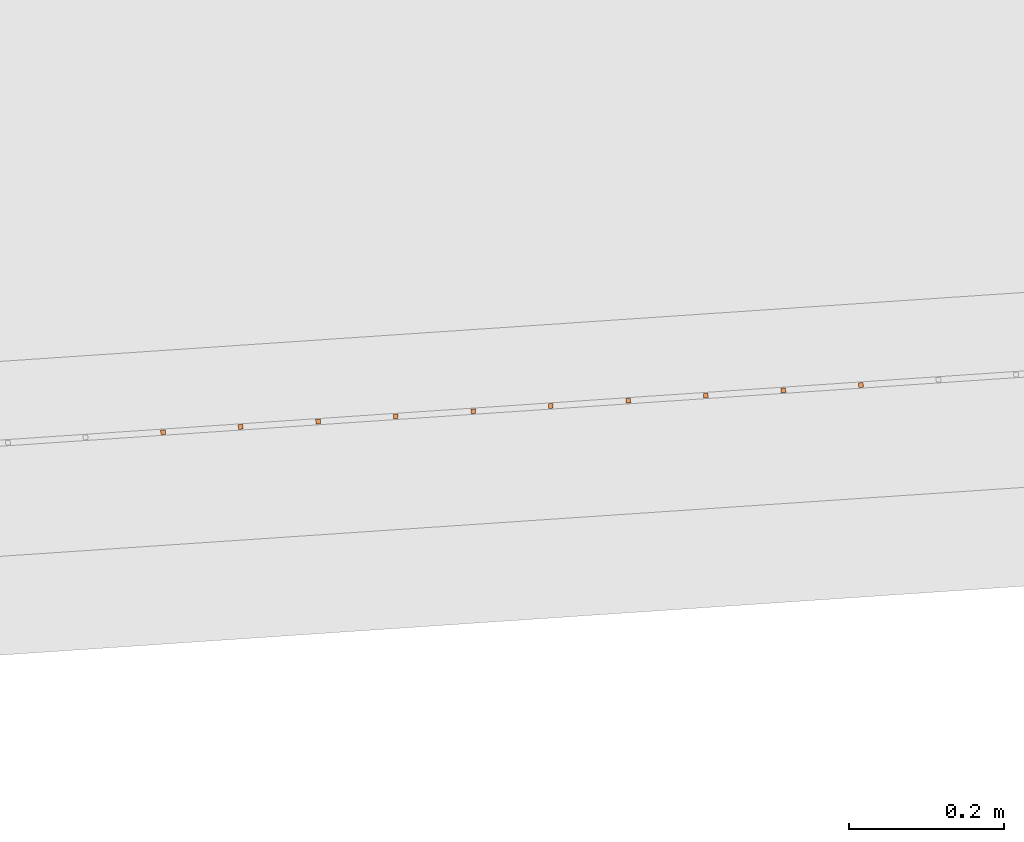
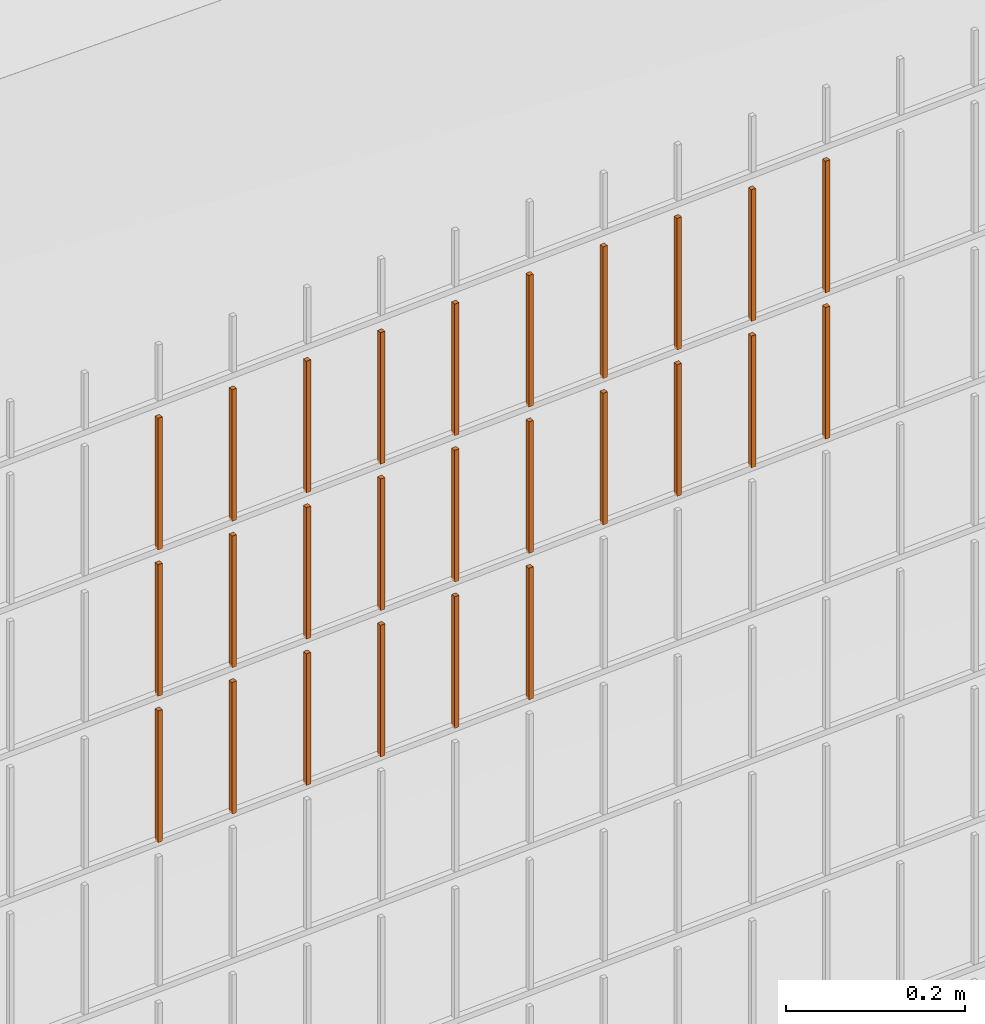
# One storey, part 348 of 1809: 26 proxies, 1 element without a shape of its own.
"""IFC2X3 building model written with IfcOpenShell, lengths in millimetres."""

import ifcopenshell
import ifcopenshell.guid

model = None  # the IFC model being written
_history = None  # IfcOwnerHistory: only IFC2X3 demands one
_inside = {}  # id of a spatial element -> (the spatial element, [elements in it])
_under = {}  # id of a project, library or spatial element -> (it, [spatial elements below it])
_declared = {}  # id of a project -> (the project, [libraries it declares])
_typed = {}  # id of a type object -> (the type object, [elements of that type])
_made_of = {}  # id of a material, layer set ... -> (it, [elements and type objects made of it])


def new_model(schema):
    """Start an empty IFC model of exactly this schema.

    Asked for "IFC4X3", IfcOpenShell would pick the latest addendum, in which some entities
    have other attributes; the version numbers below select the first issue.
    IFC2X3 requires an IfcOwnerHistory on every rooted entity: one is made here for all.
    """
    global model, _history
    if schema == "IFC4X3":
        model = ifcopenshell.file(schema_version=(4, 3, 0, 0))
    else:
        model = ifcopenshell.file(schema=schema)
    _inside.clear()
    _under.clear()
    _declared.clear()
    _typed.clear()
    _made_of.clear()
    _history = None
    if model.schema == "IFC2X3":
        org = make("IfcOrganization", Name="unknown")
        user = make(
            "IfcPersonAndOrganization",
            ThePerson=make("IfcPerson", FamilyName="unknown"),
            TheOrganization=org,
        )
        app = make(
            "IfcApplication",
            ApplicationDeveloper=org,
            Version="unknown",
            ApplicationFullName="unknown",
            ApplicationIdentifier="unknown",
        )
        _history = make(
            "IfcOwnerHistory",
            OwningUser=user,
            OwningApplication=app,
            ChangeAction="ADDED",
            CreationDate=0,
        )
    return model


def make(cls, **values):
    """One entity of the class cls with the attributes given. An attribute that is None is left unset."""
    return model.create_entity(
        cls, **{name: value for name, value in values.items() if value is not None}
    )


def entity(cls, *values):
    """Any entity or typed value of the class cls, its attributes in the order of the schema. None: left unset."""
    e = model.create_entity(cls)
    for i, value in enumerate(values):
        if value is not None:
            e[i] = value
    return e


def rooted(cls, **values):
    """An entity with a GlobalId (a new one), such as an element, a storey or a relation."""
    return make(cls, GlobalId=ifcopenshell.guid.new(), OwnerHistory=_history, **values)


def si_unit(unit_type, name, prefix=None):
    """IfcSIUnit, for example si_unit("LENGTHUNIT", "METRE", prefix="MILLI")."""
    return make("IfcSIUnit", UnitType=unit_type, Prefix=prefix, Name=name)


def converted_unit(unit_type, name, factor, base, dimensions=None, offset=None):
    """IfcConversionBasedUnit, such as the inch: factor (a typed value) times the base unit."""
    return make(
        "IfcConversionBasedUnit"
        if offset is None
        else "IfcConversionBasedUnitWithOffset",
        ConversionOffset=offset,
        Dimensions=None
        if dimensions is None
        else entity("IfcDimensionalExponents", *dimensions),
        UnitType=unit_type,
        Name=name,
        ConversionFactor=make(
            "IfcMeasureWithUnit", ValueComponent=factor, UnitComponent=base
        ),
    )


def derived_unit(unit_type, elements):
    """IfcDerivedUnit: a product of units, each with its exponent."""
    return make(
        "IfcDerivedUnit",
        Elements=[
            make("IfcDerivedUnitElement", Unit=unit, Exponent=power)
            for unit, power in elements
        ],
        UnitType=unit_type,
    )


def money_unit(currency):
    """IfcMonetaryUnit."""
    return make("IfcMonetaryUnit", Currency=currency)


def assignment(units):
    """IfcUnitAssignment: the units of a project."""
    return None if units is None else make("IfcUnitAssignment", Units=units)


def point(xyz):
    """IfcCartesianPoint."""
    return None if xyz is None else make("IfcCartesianPoint", Coordinates=xyz)


def direction(xyz):
    """IfcDirection."""
    return None if xyz is None else make("IfcDirection", DirectionRatios=xyz)


def frame(location, z_axis=None, x_axis=None):
    """IfcAxis2Placement3D, a coordinate frame: its origin and axes. An axis left out is left unset."""
    return make(
        "IfcAxis2Placement3D",
        Location=point(location),
        Axis=direction(z_axis),
        RefDirection=direction(x_axis),
    )


def origin_with_axes():
    """The frame at (0, 0, 0) with the z axis (0, 0, 1) and the x axis (1, 0, 0) written out."""
    return frame((0.0, 0.0, 0.0), z_axis=(0.0, 0.0, 1.0), x_axis=(1.0, 0.0, 0.0))


def place(relative_to, where):
    """IfcLocalPlacement: puts the frame where relative to a parent placement (None: the world)."""
    return make(
        "IfcLocalPlacement", PlacementRelTo=relative_to, RelativePlacement=where
    )


def context(
    kind, dimensions, precision=None, world=None, true_north=None, identifier=None
):
    """IfcGeometricRepresentationContext, for example the 3D "Model" context."""
    return make(
        "IfcGeometricRepresentationContext",
        ContextIdentifier=identifier,
        ContextType=kind,
        CoordinateSpaceDimension=dimensions,
        Precision=precision,
        WorldCoordinateSystem=world,
        TrueNorth=true_north,
    )


def subcontext(parent, identifier, kind, view, scale=None):
    """IfcGeometricRepresentationSubContext, for example "Body" below "Model"."""
    return make(
        "IfcGeometricRepresentationSubContext",
        ContextIdentifier=identifier,
        ContextType=kind,
        ParentContext=parent,
        TargetScale=scale,
        TargetView=view,
    )


def project(units=None, contexts=None):
    """IfcProject with its units and contexts."""
    return rooted(
        "IfcProject",
        Name="project",
        RepresentationContexts=contexts,
        UnitsInContext=assignment(units),
    )


def spatial(cls, under=None, at=None, **own):
    """A site, building, storey or space (cls), placed at a placement, below another one or the project."""
    s = rooted(cls, ObjectPlacement=at, **own)
    if under is not None:
        _under.setdefault(under.id(), (under, []))[1].append(s)
    return s


def faces_of(points, faces, orient=None, outer=None):
    """IfcFace entities. A face is a list of loops; a loop is a list of indices into points, from 0.

    orient and outer hold one flag for each loop. By default every Orientation is true, the
    first loop of a face is its IfcFaceOuterBound and the others are IfcFaceBound.
    """
    made = []
    for i, loops in enumerate(faces):
        bounds = []
        for j, loop in enumerate(loops):
            is_outer = j == 0 if outer is None else outer[i][j]
            bounds.append(
                make(
                    "IfcFaceOuterBound" if is_outer else "IfcFaceBound",
                    Bound=make("IfcPolyLoop", Polygon=[points[k] for k in loop]),
                    Orientation=True if orient is None else orient[i][j],
                )
            )
        made.append(make("IfcFace", Bounds=bounds))
    return made


def faceted_brep(points, faces, orient=None, outer=None, voids=None):
    """IfcFacetedBrep: a solid bounded by flat faces; with voids (closed shells), ...WithVoids."""
    shared = [point(p) for p in points]
    hull = make("IfcClosedShell", CfsFaces=faces_of(shared, faces, orient, outer))
    if voids is None:
        return make("IfcFacetedBrep", Outer=hull)
    return make(
        "IfcFacetedBrepWithVoids",
        Outer=hull,
        Voids=[
            make(cls, CfsFaces=faces_of(shared, fs, o, b)) for cls, fs, o, b in voids
        ],
    )


def shape(context_of_items, identifier, shape_type, items):
    """IfcShapeRepresentation: the items that make up one representation, for example the "Body"."""
    return make(
        "IfcShapeRepresentation",
        ContextOfItems=context_of_items,
        RepresentationIdentifier=identifier,
        RepresentationType=shape_type,
        Items=items,
    )


def source(mapping_origin, context_of_items, identifier, shape_type, items):
    """IfcRepresentationMap: a shape defined once, which mapped items show again and again."""
    return make(
        "IfcRepresentationMap",
        MappingOrigin=mapping_origin,
        MappedRepresentation=shape(context_of_items, identifier, shape_type, items),
    )


def transform(
    local_origin,
    x_axis=None,
    y_axis=None,
    z_axis=None,
    scale=None,
    scale2=None,
    scale3=None,
    uniform=True,
):
    """IfcCartesianTransformationOperator3D, or its non-uniform kind. x_axis, y_axis, z_axis: its Axis1, 2, 3."""
    if uniform:
        return make(
            "IfcCartesianTransformationOperator3D",
            Axis1=direction(x_axis),
            Axis2=direction(y_axis),
            LocalOrigin=point(local_origin),
            Scale=scale,
            Axis3=direction(z_axis),
        )
    return make(
        "IfcCartesianTransformationOperator3DnonUniform",
        Axis1=direction(x_axis),
        Axis2=direction(y_axis),
        LocalOrigin=point(local_origin),
        Scale=scale,
        Axis3=direction(z_axis),
        Scale2=scale2,
        Scale3=scale3,
    )


def mapped(mapping_source, mapping_target):
    """IfcMappedItem: shows the shape of a source again, moved by a transform."""
    return make(
        "IfcMappedItem", MappingSource=mapping_source, MappingTarget=mapping_target
    )


def material(Name=None, Category=None):
    """IfcMaterial."""
    return make("IfcMaterial", Name=Name, Category=Category)


def made_of(thing, what):
    """Note that an element or type object is made of a material, layer set ...; save() writes the relation."""
    if what is not None:
        _made_of.setdefault(what.id(), (what, []))[1].append(thing)
    return thing


def type_object(cls, material=None, **own):
    """A type object (cls), such as IfcWallType, which elements share."""
    return made_of(rooted(cls, **own), material)


def element(
    cls,
    number,
    at=None,
    inside=None,
    cuts=None,
    type_object=None,
    material=None,
    context=None,
    identifier="Body",
    shape_type=None,
    held_by="IfcProductDefinitionShape",
    body=None,
    shapes=None,
    **own,
):
    """One element of the class cls, such as IfcWall. Its Tag is "e" and its number.

    at: its placement. inside: the storey or other place that contains it. cuts: it is an
    opening in that element (IfcRelVoidsElement). A single representation is given by context,
    identifier, shape_type and body (its items); several are given by shapes. held_by: the class
    of the entity that holds the representations. save() writes the other relations.
    """
    e = rooted(cls, Tag="e%d" % number, ObjectPlacement=at, **own)
    if body is not None:
        shapes = [shape(context, identifier, shape_type, body)]
    if shapes is not None:
        e.Representation = make(held_by, Representations=shapes)
    if inside is not None:
        _inside.setdefault(inside.id(), (inside, []))[1].append(e)
    if cuts is not None:
        rooted(
            "IfcRelVoidsElement", RelatingBuildingElement=cuts, RelatedOpeningElement=e
        )
    if type_object is not None:
        _typed.setdefault(type_object.id(), (type_object, []))[1].append(e)
    return made_of(e, material)


def aggregate(whole, parts):
    """IfcRelAggregates: a whole, such as a stair, and the parts it consists of."""
    return rooted("IfcRelAggregates", RelatingObject=whole, RelatedObjects=parts)


def save(model, path):
    """Write the relations noted so far, then the file.

    IfcRelAggregates (storeys below a building ...), IfcRelContainedInSpatialStructure (elements
    in a storey), IfcRelDefinesByType, IfcRelAssociatesMaterial and IfcRelDeclares: one each for
    every whole, place, type object, material and project.
    """
    for whole, parts in _under.values():
        aggregate(whole, parts)
    for where, things in _inside.values():
        rooted(
            "IfcRelContainedInSpatialStructure",
            RelatedElements=things,
            RelatingStructure=where,
        )
    for kind, things in _typed.values():
        rooted("IfcRelDefinesByType", RelatedObjects=things, RelatingType=kind)
    for what, things in _made_of.values():
        rooted("IfcRelAssociatesMaterial", RelatedObjects=things, RelatingMaterial=what)
    for by, libraries in _declared.values():
        rooted("IfcRelDeclares", RelatingContext=by, RelatedDefinitions=libraries)
    model.write(path)


model = new_model("IFC2X3")

# Units and contexts
model_context = context("Model", 3, precision=0.01, world=origin_with_axes(), true_north=direction((0.0, 1.0)))
body_context = subcontext(model_context, "Body", "Model", "MODEL_VIEW")
ifc_project = project(units=[si_unit("LENGTHUNIT", "METRE", prefix="MILLI"), si_unit("AREAUNIT", "SQUARE_METRE"), si_unit("VOLUMEUNIT", "CUBIC_METRE"), converted_unit("PLANEANGLEUNIT", "DEGREE", entity("IfcPlaneAngleMeasure", 0.0174532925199), si_unit("PLANEANGLEUNIT", "RADIAN"), dimensions=[0, 0, 0, 0, 0, 0, 0]), si_unit("SOLIDANGLEUNIT", "STERADIAN"), money_unit("EUR"), converted_unit("TIMEUNIT", "Year", entity("IfcTimeMeasure", 31556926.0), si_unit("TIMEUNIT", "SECOND"), dimensions=[0, 0, 1, 0, 0, 0, 0]), si_unit("MASSUNIT", "GRAM", prefix="KILO"), si_unit("THERMODYNAMICTEMPERATUREUNIT", "DEGREE_CELSIUS"), si_unit("LUMINOUSINTENSITYUNIT", "LUMEN"), si_unit("ENERGYUNIT", "JOULE", prefix="MEGA"), derived_unit("THERMALCONDUCTANCEUNIT", [(si_unit("POWERUNIT", "WATT"), 1), (si_unit("LENGTHUNIT", "METRE"), -1), (si_unit("THERMODYNAMICTEMPERATUREUNIT", "KELVIN"), -1)]), derived_unit("SPECIFICHEATCAPACITYUNIT", [(si_unit("ENERGYUNIT", "JOULE"), 1), (si_unit("MASSUNIT", "GRAM", prefix="KILO"), -1), (si_unit("THERMODYNAMICTEMPERATUREUNIT", "KELVIN"), -1)]), derived_unit("MASSDENSITYUNIT", [(si_unit("MASSUNIT", "GRAM", prefix="KILO"), 1), (si_unit("VOLUMEUNIT", "CUBIC_METRE"), -1)])], contexts=[model_context])

# Site, building, storey
site_placement = place(None, origin_with_axes())
site = spatial("IfcSite", under=ifc_project, at=site_placement, Name="Politse- ja Piirivalveameti ning Päästeameti ühishoone", CompositionType="ELEMENT")
building_placement = place(site_placement, origin_with_axes())
building = spatial("IfcBuilding", under=site, at=building_placement, Name="Politse- ja Piirivalveameti ning Päästeameti ühishoone", CompositionType="ELEMENT")
storey_placement = place(building_placement, origin_with_axes())
storey = spatial("IfcBuildingStorey", under=building, at=storey_placement, Name="Esimene korrus", CompositionType="ELEMENT", Elevation=0.0)

# Proxies
building_element_proxy_type_1 = type_object("IfcBuildingElementProxyType", Name="Railing Type", PredefinedType="NOTDEFINED")
proxy_1_placement = place(storey_placement, frame((89252.001212, -29183.4766571, 203.661247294), z_axis=(0.0, 0.0, 1.0), x_axis=(1.0, 0.0, 0.0)))
proxy_1 = element("IfcBuildingElementProxy", 1, at=proxy_1_placement, inside=storey, type_object=building_element_proxy_type_1, Name="PIIRDEAED")
ifc_material = material(Name="ET-03_Raud")
building_element_proxy_type_2 = type_object("IfcBuildingElementProxyType", Name="IfcBuildingElementProxy", PredefinedType="NOTDEFINED")
shared_shape_1 = source(origin_with_axes(), body_context, "Body", "Brep", [
    faceted_brep([(3.0, 3.0, -0.000752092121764), (-3.0, 3.0, -0.000752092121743), (-3.0, 3.0, 179.99926046), (3.0, 3.0, 179.99926046), (3.0, -3.0, 0.000752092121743), (-3.0, -3.0, 0.000752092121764), (-3.0, -3.0, 180.000764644), (3.0, -3.0, 180.000764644)], [[[0, 1, 2, 3]], [[0, 4, 5, 1]], [[1, 5, 6, 2]], [[3, 2, 6, 7]], [[4, 0, 3, 7]], [[5, 4, 7, 6]]]),
])
proxy_2_placement = place(proxy_1_placement, frame((-28262.2881008, -19206.7856648, 1620.13295922), z_axis=(0.0, 0.0, 1.0), x_axis=(1.0, 0.0, 0.0)))
proxy_2 = element("IfcBuildingElementProxy", 2, at=proxy_2_placement, type_object=building_element_proxy_type_2, material=ifc_material, Name="BALUSTER - 001", context=body_context, shape_type="MappedRepresentation", body=[
    mapped(shared_shape_1, transform((0.0, 0.0, 0.0), x_axis=(-0.0673926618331, 0.997726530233, 0.0), y_axis=(-0.997726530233, -0.0673926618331, 0.0), z_axis=(0.0, 0.0, 1.0))),
])
shared_shape_2 = source(origin_with_axes(), body_context, "Body", "Brep", [
    faceted_brep([(3.0, 3.0, -0.000752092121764), (-3.0, 3.0, -0.000752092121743), (-3.0, 3.0, 179.99926046), (3.0, 3.0, 179.99926046), (3.0, -3.0, 0.000752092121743), (-3.0, -3.0, 0.000752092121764), (-3.0, -3.0, 180.000764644), (3.0, -3.0, 180.000764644)], [[[0, 1, 2, 3]], [[0, 4, 5, 1]], [[1, 5, 6, 2]], [[3, 2, 6, 7]], [[4, 0, 3, 7]], [[5, 4, 7, 6]]]),
])
proxy_3_placement = place(proxy_1_placement, frame((-28262.2881008, -19206.7856648, 1820.13295922), z_axis=(0.0, 0.0, 1.0), x_axis=(1.0, 0.0, 0.0)))
proxy_3 = element("IfcBuildingElementProxy", 3, at=proxy_3_placement, type_object=building_element_proxy_type_2, material=ifc_material, Name="BALUSTER - 001", context=body_context, shape_type="MappedRepresentation", body=[
    mapped(shared_shape_2, transform((0.0, 0.0, 0.0), x_axis=(-0.0673926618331, 0.997726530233, 0.0), y_axis=(-0.997726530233, -0.0673926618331, 0.0), z_axis=(0.0, 0.0, 1.0))),
])
shared_shape_3 = source(origin_with_axes(), body_context, "Body", "Brep", [
    faceted_brep([(3.0, 3.0, -0.000752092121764), (-3.0, 3.0, -0.000752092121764), (-3.0, 3.0, 179.99926046), (3.0, 3.0, 179.99926046), (3.0, -3.0, 0.000752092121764), (-3.0, -3.0, 0.000752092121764), (-3.0, -3.0, 180.000764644), (3.0, -3.0, 180.000764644)], [[[0, 1, 2, 3]], [[0, 4, 5, 1]], [[1, 5, 6, 2]], [[3, 2, 6, 7]], [[4, 0, 3, 7]], [[5, 4, 7, 6]]]),
])
proxy_4_placement = place(proxy_1_placement, frame((-28860.9240189, -19247.2212619, 1419.9825408), z_axis=(0.0, 0.0, 1.0), x_axis=(1.0, 0.0, 0.0)))
proxy_4 = element("IfcBuildingElementProxy", 4, at=proxy_4_placement, type_object=building_element_proxy_type_2, material=ifc_material, Name="BALUSTER - 001", context=body_context, shape_type="MappedRepresentation", body=[
    mapped(shared_shape_3, transform((0.0, 0.0, 0.0), x_axis=(-0.0673926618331, 0.997726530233, 0.0), y_axis=(-0.997726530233, -0.0673926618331, 0.0), z_axis=(0.0, 0.0, 1.0))),
])
proxy_5_placement = place(proxy_1_placement, frame((-28860.9240189, -19247.2212619, 1619.9825408), z_axis=(0.0, 0.0, 1.0), x_axis=(1.0, 0.0, 0.0)))
proxy_5 = element("IfcBuildingElementProxy", 5, at=proxy_5_placement, type_object=building_element_proxy_type_2, material=ifc_material, Name="BALUSTER - 001", context=body_context, shape_type="MappedRepresentation", body=[
    mapped(shared_shape_3, transform((0.0, 0.0, 0.0), x_axis=(-0.0673926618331, 0.997726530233, 0.0), y_axis=(-0.997726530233, -0.0673926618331, 0.0), z_axis=(0.0, 0.0, 1.0))),
])
shared_shape_4 = source(origin_with_axes(), body_context, "Body", "Brep", [
    faceted_brep([(3.0, 3.0, -0.000752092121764), (-3.0, 3.0, -0.000752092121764), (-3.0, 3.0, 179.99926046), (3.0, 3.0, 179.99926046), (3.0, -3.0, 0.000752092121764), (-3.0, -3.0, 0.000752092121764), (-3.0, -3.0, 180.000764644), (3.0, -3.0, 180.000764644)], [[[0, 1, 2, 3]], [[0, 4, 5, 1]], [[1, 5, 6, 2]], [[3, 2, 6, 7]], [[4, 0, 3, 7]], [[5, 4, 7, 6]]]),
])
proxy_6_placement = place(proxy_1_placement, frame((-28860.9240189, -19247.2212619, 1819.9825408), z_axis=(0.0, 0.0, 1.0), x_axis=(1.0, 0.0, 0.0)))
proxy_6 = element("IfcBuildingElementProxy", 6, at=proxy_6_placement, type_object=building_element_proxy_type_2, material=ifc_material, Name="BALUSTER - 001", context=body_context, shape_type="MappedRepresentation", body=[
    mapped(shared_shape_4, transform((0.0, 0.0, 0.0), x_axis=(-0.0673926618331, 0.997726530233, 0.0), y_axis=(-0.997726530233, -0.0673926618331, 0.0), z_axis=(0.0, 0.0, 1.0))),
])
shared_shape_5 = source(origin_with_axes(), body_context, "Body", "Brep", [
    faceted_brep([(3.0, 3.0, -0.000752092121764), (-3.0, 3.0, -0.000752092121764), (-3.0, 3.0, 179.99926046), (3.0, 3.0, 179.99926046), (3.0, -3.0, 0.000752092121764), (-3.0, -3.0, 0.000752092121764), (-3.0, -3.0, 180.000764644), (3.0, -3.0, 180.000764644)], [[[0, 1, 2, 3]], [[0, 4, 5, 1]], [[1, 5, 6, 2]], [[3, 2, 6, 7]], [[4, 0, 3, 7]], [[5, 4, 7, 6]]]),
])
proxy_7_placement = place(proxy_1_placement, frame((-28362.0607538, -19213.524931, 1820.10788949), z_axis=(0.0, 0.0, 1.0), x_axis=(1.0, 0.0, 0.0)))
proxy_7 = element("IfcBuildingElementProxy", 7, at=proxy_7_placement, type_object=building_element_proxy_type_2, material=ifc_material, Name="BALUSTER - 001", context=body_context, shape_type="MappedRepresentation", body=[
    mapped(shared_shape_5, transform((0.0, 0.0, 0.0), x_axis=(-0.0673926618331, 0.997726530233, 0.0), y_axis=(-0.997726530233, -0.0673926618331, 0.0), z_axis=(0.0, 0.0, 1.0))),
])
shared_shape_6 = source(origin_with_axes(), body_context, "Body", "Brep", [
    faceted_brep([(3.0, 3.0, -0.000752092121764), (-3.0, 3.0, -0.000752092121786), (-3.0, 3.0, 179.99926046), (3.0, 3.0, 179.99926046), (3.0, -3.0, 0.000752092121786), (-3.0, -3.0, 0.000752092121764), (-3.0, -3.0, 180.000764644), (3.0, -3.0, 180.000764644)], [[[0, 1, 2, 3]], [[0, 4, 5, 1]], [[1, 5, 6, 2]], [[3, 2, 6, 7]], [[4, 0, 3, 7]], [[5, 4, 7, 6]]]),
])
proxy_8_placement = place(proxy_1_placement, frame((-28761.1513659, -19240.4819957, 1820.00761054), z_axis=(0.0, 0.0, 1.0), x_axis=(1.0, 0.0, 0.0)))
proxy_8 = element("IfcBuildingElementProxy", 8, at=proxy_8_placement, type_object=building_element_proxy_type_2, material=ifc_material, Name="BALUSTER - 001", context=body_context, shape_type="MappedRepresentation", body=[
    mapped(shared_shape_6, transform((0.0, 0.0, 0.0), x_axis=(-0.0673926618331, 0.997726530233, 0.0), y_axis=(-0.997726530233, -0.0673926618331, 0.0), z_axis=(0.0, 0.0, 1.0))),
])
shared_shape_7 = source(origin_with_axes(), body_context, "Body", "Brep", [
    faceted_brep([(3.0, 3.0, -0.000752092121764), (-3.0, 3.0, -0.000752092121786), (-3.0, 3.0, 179.99926046), (3.0, 3.0, 179.99926046), (3.0, -3.0, 0.000752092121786), (-3.0, -3.0, 0.000752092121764), (-3.0, -3.0, 180.000764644), (3.0, -3.0, 180.000764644)], [[[0, 1, 2, 3]], [[0, 4, 5, 1]], [[1, 5, 6, 2]], [[3, 2, 6, 7]], [[4, 0, 3, 7]], [[5, 4, 7, 6]]]),
])
proxy_9_placement = place(proxy_1_placement, frame((-28661.3787129, -19233.7427295, 1820.03268027), z_axis=(0.0, 0.0, 1.0), x_axis=(1.0, 0.0, 0.0)))
proxy_9 = element("IfcBuildingElementProxy", 9, at=proxy_9_placement, type_object=building_element_proxy_type_2, material=ifc_material, Name="BALUSTER - 001", context=body_context, shape_type="MappedRepresentation", body=[
    mapped(shared_shape_7, transform((0.0, 0.0, 0.0), x_axis=(-0.0673926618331, 0.997726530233, 0.0), y_axis=(-0.997726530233, -0.0673926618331, 0.0), z_axis=(0.0, 0.0, 1.0))),
])
shared_shape_8 = source(origin_with_axes(), body_context, "Body", "Brep", [
    faceted_brep([(3.0, 3.0, -0.000752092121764), (-3.0, 3.0, -0.000752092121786), (-3.0, 3.0, 179.99926046), (3.0, 3.0, 179.99926046), (3.0, -3.0, 0.000752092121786), (-3.0, -3.0, 0.000752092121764), (-3.0, -3.0, 180.000764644), (3.0, -3.0, 180.000764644)], [[[0, 1, 2, 3]], [[0, 4, 5, 1]], [[1, 5, 6, 2]], [[3, 2, 6, 7]], [[4, 0, 3, 7]], [[5, 4, 7, 6]]]),
])
proxy_10_placement = place(proxy_1_placement, frame((-28661.3787129, -19233.7427295, 1420.03268027), z_axis=(0.0, 0.0, 1.0), x_axis=(1.0, 0.0, 0.0)))
proxy_10 = element("IfcBuildingElementProxy", 10, at=proxy_10_placement, type_object=building_element_proxy_type_2, material=ifc_material, Name="BALUSTER - 001", context=body_context, shape_type="MappedRepresentation", body=[
    mapped(shared_shape_8, transform((0.0, 0.0, 0.0), x_axis=(-0.0673926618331, 0.997726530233, 0.0), y_axis=(-0.997726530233, -0.0673926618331, 0.0), z_axis=(0.0, 0.0, 1.0))),
])
shared_shape_9 = source(origin_with_axes(), body_context, "Body", "Brep", [
    faceted_brep([(3.0, 3.0, -0.000752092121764), (-3.0, 3.0, -0.000752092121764), (-3.0, 3.0, 179.99926046), (3.0, 3.0, 179.99926046), (3.0, -3.0, 0.000752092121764), (-3.0, -3.0, 0.000752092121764), (-3.0, -3.0, 180.000764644), (3.0, -3.0, 180.000764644)], [[[0, 1, 2, 3]], [[0, 4, 5, 1]], [[1, 5, 6, 2]], [[3, 2, 6, 7]], [[4, 0, 3, 7]], [[5, 4, 7, 6]]]),
])
proxy_11_placement = place(proxy_1_placement, frame((-28362.0607538, -19213.524931, 1620.10788949), z_axis=(0.0, 0.0, 1.0), x_axis=(1.0, 0.0, 0.0)))
proxy_11 = element("IfcBuildingElementProxy", 11, at=proxy_11_placement, type_object=building_element_proxy_type_2, material=ifc_material, Name="BALUSTER - 001", context=body_context, shape_type="MappedRepresentation", body=[
    mapped(shared_shape_9, transform((0.0, 0.0, 0.0), x_axis=(-0.0673926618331, 0.997726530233, 0.0), y_axis=(-0.997726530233, -0.0673926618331, 0.0), z_axis=(0.0, 0.0, 1.0))),
])
shared_shape_10 = source(origin_with_axes(), body_context, "Body", "Brep", [
    faceted_brep([(3.0, 3.0, -0.000752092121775), (-3.0, 3.0, -0.000752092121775), (-3.0, 3.0, 179.99926046), (3.0, 3.0, 179.99926046), (3.0, -3.0, 0.000752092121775), (-3.0, -3.0, 0.000752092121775), (-3.0, -3.0, 180.000764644), (3.0, -3.0, 180.000764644)], [[[0, 1, 2, 3]], [[0, 4, 5, 1]], [[1, 5, 6, 2]], [[3, 2, 6, 7]], [[4, 0, 3, 7]], [[5, 4, 7, 6]]]),
])
proxy_12_placement = place(proxy_1_placement, frame((-28561.6060598, -19227.0034633, 1620.05775001), z_axis=(0.0, 0.0, 1.0), x_axis=(1.0, 0.0, 0.0)))
proxy_12 = element("IfcBuildingElementProxy", 12, at=proxy_12_placement, type_object=building_element_proxy_type_2, material=ifc_material, Name="BALUSTER - 001", context=body_context, shape_type="MappedRepresentation", body=[
    mapped(shared_shape_10, transform((0.0, 0.0, 0.0), x_axis=(-0.0673926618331, 0.997726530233, 0.0), y_axis=(-0.997726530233, -0.0673926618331, 0.0), z_axis=(0.0, 0.0, 1.0))),
])
shared_shape_11 = source(origin_with_axes(), body_context, "Body", "Brep", [
    faceted_brep([(3.0, 3.0, -0.000752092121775), (-3.0, 3.0, -0.000752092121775), (-3.0, 3.0, 179.99926046), (3.0, 3.0, 179.99926046), (3.0, -3.0, 0.000752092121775), (-3.0, -3.0, 0.000752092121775), (-3.0, -3.0, 180.000764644), (3.0, -3.0, 180.000764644)], [[[0, 1, 2, 3]], [[0, 4, 5, 1]], [[1, 5, 6, 2]], [[3, 2, 6, 7]], [[4, 0, 3, 7]], [[5, 4, 7, 6]]]),
])
proxy_13_placement = place(proxy_1_placement, frame((-28561.6060598, -19227.0034633, 1820.05775001), z_axis=(0.0, 0.0, 1.0), x_axis=(1.0, 0.0, 0.0)))
proxy_13 = element("IfcBuildingElementProxy", 13, at=proxy_13_placement, type_object=building_element_proxy_type_2, material=ifc_material, Name="BALUSTER - 001", context=body_context, shape_type="MappedRepresentation", body=[
    mapped(shared_shape_11, transform((0.0, 0.0, 0.0), x_axis=(-0.0673926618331, 0.997726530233, 0.0), y_axis=(-0.997726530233, -0.0673926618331, 0.0), z_axis=(0.0, 0.0, 1.0))),
])
shared_shape_12 = source(origin_with_axes(), body_context, "Body", "Brep", [
    faceted_brep([(3.0, 3.0, -0.000752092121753), (-3.0, 3.0, -0.000752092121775), (-3.0, 3.0, 179.99926046), (3.0, 3.0, 179.99926046), (3.0, -3.0, 0.000752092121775), (-3.0, -3.0, 0.000752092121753), (-3.0, -3.0, 180.000764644), (3.0, -3.0, 180.000764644)], [[[0, 1, 2, 3]], [[0, 4, 5, 1]], [[1, 5, 6, 2]], [[3, 2, 6, 7]], [[4, 0, 3, 7]], [[5, 4, 7, 6]]]),
])
proxy_14_placement = place(proxy_1_placement, frame((-28461.8334068, -19220.2641972, 1820.08281975), z_axis=(0.0, 0.0, 1.0), x_axis=(1.0, 0.0, 0.0)))
proxy_14 = element("IfcBuildingElementProxy", 14, at=proxy_14_placement, type_object=building_element_proxy_type_2, material=ifc_material, Name="BALUSTER - 001", context=body_context, shape_type="MappedRepresentation", body=[
    mapped(shared_shape_12, transform((0.0, 0.0, 0.0), x_axis=(-0.0673926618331, 0.997726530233, 0.0), y_axis=(-0.997726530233, -0.0673926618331, 0.0), z_axis=(0.0, 0.0, 1.0))),
])
shared_shape_13 = source(origin_with_axes(), body_context, "Body", "Brep", [
    faceted_brep([(3.0, 3.0, -0.000752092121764), (-3.0, 3.0, -0.000752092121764), (-3.0, 3.0, 179.99926046), (3.0, 3.0, 179.99926046), (3.0, -3.0, 0.000752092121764), (-3.0, -3.0, 0.000752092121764), (-3.0, -3.0, 180.000764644), (3.0, -3.0, 180.000764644)], [[[0, 1, 2, 3]], [[0, 4, 5, 1]], [[1, 5, 6, 2]], [[3, 2, 6, 7]], [[4, 0, 3, 7]], [[5, 4, 7, 6]]]),
])
proxy_15_placement = place(proxy_1_placement, frame((-28960.6966719, -19253.9605281, 1619.95747106), z_axis=(0.0, 0.0, 1.0), x_axis=(1.0, 0.0, 0.0)))
proxy_15 = element("IfcBuildingElementProxy", 15, at=proxy_15_placement, type_object=building_element_proxy_type_2, material=ifc_material, Name="BALUSTER - 001", context=body_context, shape_type="MappedRepresentation", body=[
    mapped(shared_shape_13, transform((0.0, 0.0, 0.0), x_axis=(-0.0673926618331, 0.997726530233, 0.0), y_axis=(-0.997726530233, -0.0673926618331, 0.0), z_axis=(0.0, 0.0, 1.0))),
])
shared_shape_14 = source(origin_with_axes(), body_context, "Body", "Brep", [
    faceted_brep([(3.0, 3.0, -0.000752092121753), (-3.0, 3.0, -0.000752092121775), (-3.0, 3.0, 179.99926046), (3.0, 3.0, 179.99926046), (3.0, -3.0, 0.000752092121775), (-3.0, -3.0, 0.000752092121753), (-3.0, -3.0, 180.000764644), (3.0, -3.0, 180.000764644)], [[[0, 1, 2, 3]], [[0, 4, 5, 1]], [[1, 5, 6, 2]], [[3, 2, 6, 7]], [[4, 0, 3, 7]], [[5, 4, 7, 6]]]),
])
proxy_16_placement = place(proxy_1_placement, frame((-29060.469325, -19260.6997943, 1819.93240133), z_axis=(0.0, 0.0, 1.0), x_axis=(1.0, 0.0, 0.0)))
proxy_16 = element("IfcBuildingElementProxy", 16, at=proxy_16_placement, type_object=building_element_proxy_type_2, material=ifc_material, Name="BALUSTER - 001", context=body_context, shape_type="MappedRepresentation", body=[
    mapped(shared_shape_14, transform((0.0, 0.0, 0.0), x_axis=(-0.0673926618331, 0.997726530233, 0.0), y_axis=(-0.997726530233, -0.0673926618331, 0.0), z_axis=(0.0, 0.0, 1.0))),
])
shared_shape_15 = source(origin_with_axes(), body_context, "Body", "Brep", [
    faceted_brep([(3.0, 3.0, -0.000752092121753), (-3.0, 3.0, -0.000752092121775), (-3.0, 3.0, 179.99926046), (3.0, 3.0, 179.99926046), (3.0, -3.0, 0.000752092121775), (-3.0, -3.0, 0.000752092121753), (-3.0, -3.0, 180.000764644), (3.0, -3.0, 180.000764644)], [[[0, 1, 2, 3]], [[0, 4, 5, 1]], [[1, 5, 6, 2]], [[3, 2, 6, 7]], [[4, 0, 3, 7]], [[5, 4, 7, 6]]]),
])
proxy_17_placement = place(proxy_1_placement, frame((-29160.241978, -19267.4390604, 1419.90733159), z_axis=(0.0, 0.0, 1.0), x_axis=(1.0, 0.0, 0.0)))
proxy_17 = element("IfcBuildingElementProxy", 17, at=proxy_17_placement, type_object=building_element_proxy_type_2, material=ifc_material, Name="BALUSTER - 001", context=body_context, shape_type="MappedRepresentation", body=[
    mapped(shared_shape_15, transform((0.0, 0.0, 0.0), x_axis=(-0.0673926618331, 0.997726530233, 0.0), y_axis=(-0.997726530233, -0.0673926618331, 0.0), z_axis=(0.0, 0.0, 1.0))),
])
proxy_18_placement = place(proxy_1_placement, frame((-29160.241978, -19267.4390604, 1619.90733159), z_axis=(0.0, 0.0, 1.0), x_axis=(1.0, 0.0, 0.0)))
proxy_18 = element("IfcBuildingElementProxy", 18, at=proxy_18_placement, type_object=building_element_proxy_type_2, material=ifc_material, Name="BALUSTER - 001", context=body_context, shape_type="MappedRepresentation", body=[
    mapped(shared_shape_15, transform((0.0, 0.0, 0.0), x_axis=(-0.0673926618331, 0.997726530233, 0.0), y_axis=(-0.997726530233, -0.0673926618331, 0.0), z_axis=(0.0, 0.0, 1.0))),
])
shared_shape_16 = source(origin_with_axes(), body_context, "Body", "Brep", [
    faceted_brep([(3.0, 3.0, -0.000752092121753), (-3.0, 3.0, -0.000752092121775), (-3.0, 3.0, 179.99926046), (3.0, 3.0, 179.99926046), (3.0, -3.0, 0.000752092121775), (-3.0, -3.0, 0.000752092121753), (-3.0, -3.0, 180.000764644), (3.0, -3.0, 180.000764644)], [[[0, 1, 2, 3]], [[0, 4, 5, 1]], [[1, 5, 6, 2]], [[3, 2, 6, 7]], [[4, 0, 3, 7]], [[5, 4, 7, 6]]]),
])
proxy_19_placement = place(proxy_1_placement, frame((-29160.241978, -19267.4390604, 1819.90733159), z_axis=(0.0, 0.0, 1.0), x_axis=(1.0, 0.0, 0.0)))
proxy_19 = element("IfcBuildingElementProxy", 19, at=proxy_19_placement, type_object=building_element_proxy_type_2, material=ifc_material, Name="BALUSTER - 001", context=body_context, shape_type="MappedRepresentation", body=[
    mapped(shared_shape_16, transform((0.0, 0.0, 0.0), x_axis=(-0.0673926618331, 0.997726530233, 0.0), y_axis=(-0.997726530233, -0.0673926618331, 0.0), z_axis=(0.0, 0.0, 1.0))),
])
shared_shape_17 = source(origin_with_axes(), body_context, "Body", "Brep", [
    faceted_brep([(3.0, 3.0, -0.000752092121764), (-3.0, 3.0, -0.000752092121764), (-3.0, 3.0, 179.99926046), (3.0, 3.0, 179.99926046), (3.0, -3.0, 0.000752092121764), (-3.0, -3.0, 0.000752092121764), (-3.0, -3.0, 180.000764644), (3.0, -3.0, 180.000764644)], [[[0, 1, 2, 3]], [[0, 4, 5, 1]], [[1, 5, 6, 2]], [[3, 2, 6, 7]], [[4, 0, 3, 7]], [[5, 4, 7, 6]]]),
])
proxy_20_placement = place(proxy_1_placement, frame((-28960.6966719, -19253.9605281, 1819.95747106), z_axis=(0.0, 0.0, 1.0), x_axis=(1.0, 0.0, 0.0)))
proxy_20 = element("IfcBuildingElementProxy", 20, at=proxy_20_placement, type_object=building_element_proxy_type_2, material=ifc_material, Name="BALUSTER - 001", context=body_context, shape_type="MappedRepresentation", body=[
    mapped(shared_shape_17, transform((0.0, 0.0, 0.0), x_axis=(-0.0673926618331, 0.997726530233, 0.0), y_axis=(-0.997726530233, -0.0673926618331, 0.0), z_axis=(0.0, 0.0, 1.0))),
])
shared_shape_18 = source(origin_with_axes(), body_context, "Body", "Brep", [
    faceted_brep([(3.0, 3.0, -0.000752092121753), (-3.0, 3.0, -0.000752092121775), (-3.0, 3.0, 179.99926046), (3.0, 3.0, 179.99926046), (3.0, -3.0, 0.000752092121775), (-3.0, -3.0, 0.000752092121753), (-3.0, -3.0, 180.000764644), (3.0, -3.0, 180.000764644)], [[[0, 1, 2, 3]], [[0, 4, 5, 1]], [[1, 5, 6, 2]], [[3, 2, 6, 7]], [[4, 0, 3, 7]], [[5, 4, 7, 6]]]),
])
proxy_21_placement = place(proxy_1_placement, frame((-28461.8334068, -19220.2641972, 1620.08281975), z_axis=(0.0, 0.0, 1.0), x_axis=(1.0, 0.0, 0.0)))
proxy_21 = element("IfcBuildingElementProxy", 21, at=proxy_21_placement, type_object=building_element_proxy_type_2, material=ifc_material, Name="BALUSTER - 001", context=body_context, shape_type="MappedRepresentation", body=[
    mapped(shared_shape_18, transform((0.0, 0.0, 0.0), x_axis=(-0.0673926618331, 0.997726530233, 0.0), y_axis=(-0.997726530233, -0.0673926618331, 0.0), z_axis=(0.0, 0.0, 1.0))),
])
shared_shape_19 = source(origin_with_axes(), body_context, "Body", "Brep", [
    faceted_brep([(3.0, 3.0, -0.000752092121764), (-3.0, 3.0, -0.000752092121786), (-3.0, 3.0, 179.99926046), (3.0, 3.0, 179.99926046), (3.0, -3.0, 0.000752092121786), (-3.0, -3.0, 0.000752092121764), (-3.0, -3.0, 180.000764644), (3.0, -3.0, 180.000764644)], [[[0, 1, 2, 3]], [[0, 4, 5, 1]], [[1, 5, 6, 2]], [[3, 2, 6, 7]], [[4, 0, 3, 7]], [[5, 4, 7, 6]]]),
])
proxy_22_placement = place(proxy_1_placement, frame((-28761.1513659, -19240.4819957, 1420.00761054), z_axis=(0.0, 0.0, 1.0), x_axis=(1.0, 0.0, 0.0)))
proxy_22 = element("IfcBuildingElementProxy", 22, at=proxy_22_placement, type_object=building_element_proxy_type_2, material=ifc_material, Name="BALUSTER - 001", context=body_context, shape_type="MappedRepresentation", body=[
    mapped(shared_shape_19, transform((0.0, 0.0, 0.0), x_axis=(-0.0673926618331, 0.997726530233, 0.0), y_axis=(-0.997726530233, -0.0673926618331, 0.0), z_axis=(0.0, 0.0, 1.0))),
])
proxy_23_placement = place(proxy_1_placement, frame((-28761.1513659, -19240.4819957, 1620.00761054), z_axis=(0.0, 0.0, 1.0), x_axis=(1.0, 0.0, 0.0)))
proxy_23 = element("IfcBuildingElementProxy", 23, at=proxy_23_placement, type_object=building_element_proxy_type_2, material=ifc_material, Name="BALUSTER - 001", context=body_context, shape_type="MappedRepresentation", body=[
    mapped(shared_shape_19, transform((0.0, 0.0, 0.0), x_axis=(-0.0673926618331, 0.997726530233, 0.0), y_axis=(-0.997726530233, -0.0673926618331, 0.0), z_axis=(0.0, 0.0, 1.0))),
])
shared_shape_20 = source(origin_with_axes(), body_context, "Body", "Brep", [
    faceted_brep([(3.0, 3.0, -0.000752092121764), (-3.0, 3.0, -0.000752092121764), (-3.0, 3.0, 179.99926046), (3.0, 3.0, 179.99926046), (3.0, -3.0, 0.000752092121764), (-3.0, -3.0, 0.000752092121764), (-3.0, -3.0, 180.000764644), (3.0, -3.0, 180.000764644)], [[[0, 1, 2, 3]], [[0, 4, 5, 1]], [[1, 5, 6, 2]], [[3, 2, 6, 7]], [[4, 0, 3, 7]], [[5, 4, 7, 6]]]),
])
proxy_24_placement = place(proxy_1_placement, frame((-28960.6966719, -19253.9605281, 1419.95747106), z_axis=(0.0, 0.0, 1.0), x_axis=(1.0, 0.0, 0.0)))
proxy_24 = element("IfcBuildingElementProxy", 24, at=proxy_24_placement, type_object=building_element_proxy_type_2, material=ifc_material, Name="BALUSTER - 001", context=body_context, shape_type="MappedRepresentation", body=[
    mapped(shared_shape_20, transform((0.0, 0.0, 0.0), x_axis=(-0.0673926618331, 0.997726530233, 0.0), y_axis=(-0.997726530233, -0.0673926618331, 0.0), z_axis=(0.0, 0.0, 1.0))),
])
shared_shape_21 = source(origin_with_axes(), body_context, "Body", "Brep", [
    faceted_brep([(3.0, 3.0, -0.000752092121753), (-3.0, 3.0, -0.000752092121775), (-3.0, 3.0, 179.99926046), (3.0, 3.0, 179.99926046), (3.0, -3.0, 0.000752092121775), (-3.0, -3.0, 0.000752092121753), (-3.0, -3.0, 180.000764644), (3.0, -3.0, 180.000764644)], [[[0, 1, 2, 3]], [[0, 4, 5, 1]], [[1, 5, 6, 2]], [[3, 2, 6, 7]], [[4, 0, 3, 7]], [[5, 4, 7, 6]]]),
])
proxy_25_placement = place(proxy_1_placement, frame((-29060.469325, -19260.6997943, 1419.93240133), z_axis=(0.0, 0.0, 1.0), x_axis=(1.0, 0.0, 0.0)))
proxy_25 = element("IfcBuildingElementProxy", 25, at=proxy_25_placement, type_object=building_element_proxy_type_2, material=ifc_material, Name="BALUSTER - 001", context=body_context, shape_type="MappedRepresentation", body=[
    mapped(shared_shape_21, transform((0.0, 0.0, 0.0), x_axis=(-0.0673926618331, 0.997726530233, 0.0), y_axis=(-0.997726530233, -0.0673926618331, 0.0), z_axis=(0.0, 0.0, 1.0))),
])
proxy_26_placement = place(proxy_1_placement, frame((-29060.469325, -19260.6997943, 1619.93240133), z_axis=(0.0, 0.0, 1.0), x_axis=(1.0, 0.0, 0.0)))
proxy_26 = element("IfcBuildingElementProxy", 26, at=proxy_26_placement, type_object=building_element_proxy_type_2, material=ifc_material, Name="BALUSTER - 001", context=body_context, shape_type="MappedRepresentation", body=[
    mapped(shared_shape_21, transform((0.0, 0.0, 0.0), x_axis=(-0.0673926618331, 0.997726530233, 0.0), y_axis=(-0.997726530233, -0.0673926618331, 0.0), z_axis=(0.0, 0.0, 1.0))),
])
shared_shape_22 = source(origin_with_axes(), body_context, "Body", "Brep", [
    faceted_brep([(3.0, 3.0, -0.000752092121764), (-3.0, 3.0, -0.000752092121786), (-3.0, 3.0, 179.99926046), (3.0, 3.0, 179.99926046), (3.0, -3.0, 0.000752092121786), (-3.0, -3.0, 0.000752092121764), (-3.0, -3.0, 180.000764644), (3.0, -3.0, 180.000764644)], [[[0, 1, 2, 3]], [[0, 4, 5, 1]], [[1, 5, 6, 2]], [[3, 2, 6, 7]], [[4, 0, 3, 7]], [[5, 4, 7, 6]]]),
])
proxy_27_placement = place(proxy_1_placement, frame((-28661.3787129, -19233.7427295, 1620.03268027), z_axis=(0.0, 0.0, 1.0), x_axis=(1.0, 0.0, 0.0)))
proxy_27 = element("IfcBuildingElementProxy", 27, at=proxy_27_placement, type_object=building_element_proxy_type_2, material=ifc_material, Name="BALUSTER - 001", context=body_context, shape_type="MappedRepresentation", body=[
    mapped(shared_shape_22, transform((0.0, 0.0, 0.0), x_axis=(-0.0673926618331, 0.997726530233, 0.0), y_axis=(-0.997726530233, -0.0673926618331, 0.0), z_axis=(0.0, 0.0, 1.0))),
])
aggregate(proxy_1, [proxy_10, proxy_22, proxy_4, proxy_24, proxy_25, proxy_17, proxy_2, proxy_11, proxy_21, proxy_12, proxy_27, proxy_23, proxy_5, proxy_15, proxy_26, proxy_18, proxy_3, proxy_7, proxy_14, proxy_13, proxy_9, proxy_8, proxy_6, proxy_20, proxy_16, proxy_19])

save(model, "model.ifc")
